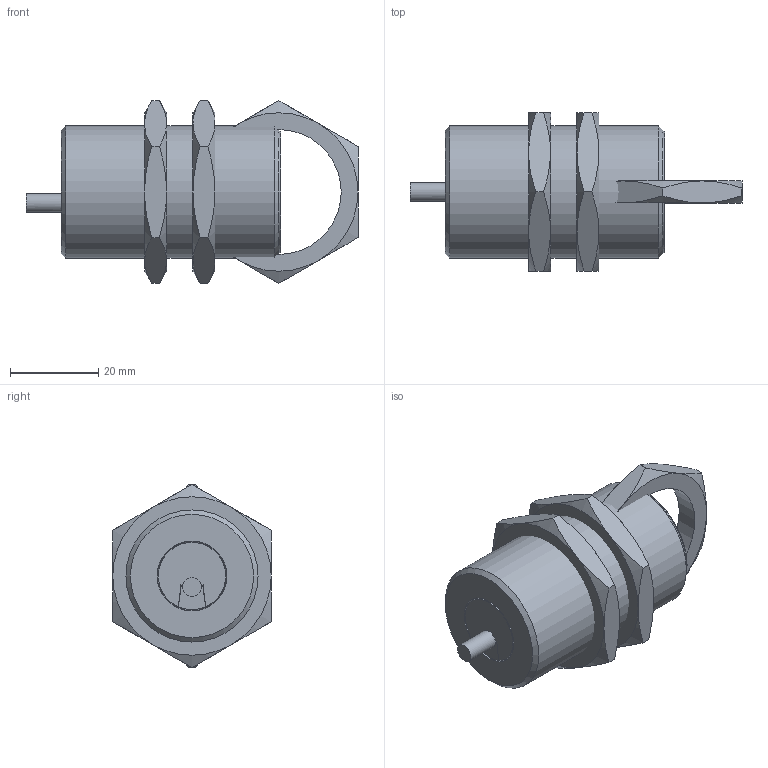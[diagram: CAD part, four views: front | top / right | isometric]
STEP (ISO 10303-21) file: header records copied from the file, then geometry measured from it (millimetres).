
FILE_DESCRIPTION( ( 'Unknown' ), '1' );
FILE_NAME( 'X:/SolidEdge/Models/Dokumentationen/Induktiv/IGYX 30/vereinfachte Modelle/Neutralformate/IGYX 30xx7B3_L.stp', 'Unknown', ( 'Unknown' ), ( 'Unknown' ), 'PSStep 14.0', 'Unknown', ' ' );
FILE_SCHEMA( ( 'AUTOMOTIVE_DESIGN { 1 0 10303 214 1 1 1 1 }' ) );
Length unit declared in the file: millimetre
Products named in the file (3): Assem1; IGYX 30xx7B3_L; 101477
Bounding box: 75.45 x 36 x 41.56 mm (x, y, z)
Volume: 77561.9 mm3; surface area: 18339.5 mm2
Topology: 5 solids, 7 shells, 143 faces, 340 edges, 213 vertices
Faces by surface type: plane 58, cone 48, cylinder 37
Full cylindrical faces by diameter (mm): 4.2 x2, 15.5 x2, 26 x2, 27.7 x2, 28.376 x3, 30 x2
Entity records: 2218 total; most frequent: CARTESIAN_POINT 440, DIRECTION 272, ORIENTED_EDGE 244, EDGE_CURVE 122, AXIS2_PLACEMENT_3D 114, VERTEX_POINT 82, EDGE_LOOP 76, FACE_OUTER_BOUND 64
